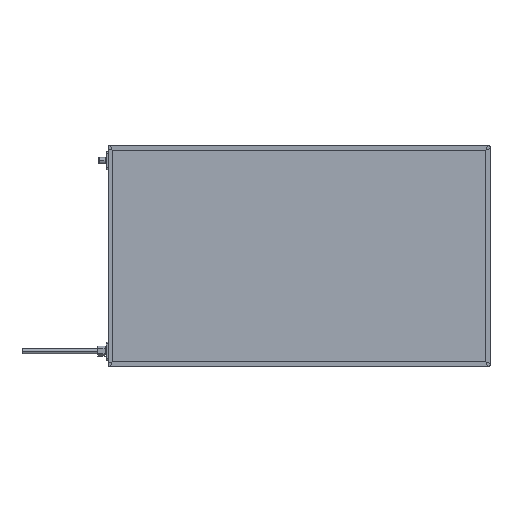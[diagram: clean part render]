
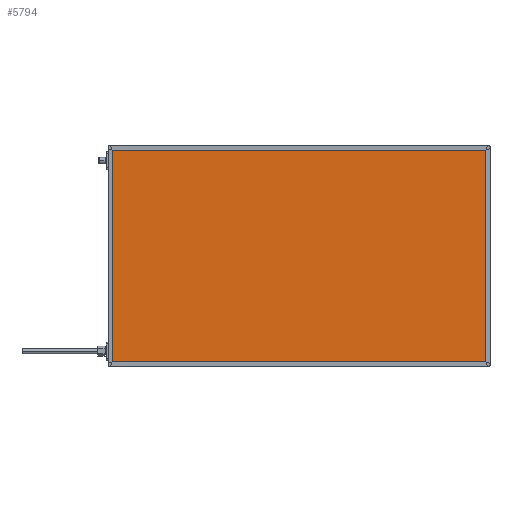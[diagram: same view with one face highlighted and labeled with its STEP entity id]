
A CAD part, top view. The second image highlights one B-rep face of the part: STEP entity #5794.
In plain terms, the highlighted planar face has unit normal (0, 0, 1).
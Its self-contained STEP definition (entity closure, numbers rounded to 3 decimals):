
#30 = LINE ( 'NONE', #1769, #5229 ) ;
#368 = CARTESIAN_POINT ( 'NONE',  ( 0., 396., 41.85 ) ) ;
#492 = DIRECTION ( 'NONE',  ( 0., -1., 0. ) ) ;
#584 = CARTESIAN_POINT ( 'NONE',  ( 4., 0., 41.85 ) ) ;
#736 = ORIENTED_EDGE ( 'NONE', *, *, #15247, .T. ) ;
#962 = VECTOR ( 'NONE', #14236, 1000. ) ;
#1390 = EDGE_LOOP ( 'NONE', ( #16215, #1502, #736, #6128 ) ) ;
#1502 = ORIENTED_EDGE ( 'NONE', *, *, #10169, .T. ) ;
#1769 = CARTESIAN_POINT ( 'NONE',  ( 696., 0., 41.85 ) ) ;
#2897 = EDGE_CURVE ( 'NONE', #14921, #13011, #30, .T. ) ;
#3238 = CARTESIAN_POINT ( 'NONE',  ( 696., 396., 41.85 ) ) ;
#4182 = CARTESIAN_POINT ( 'NONE',  ( 4., 396., 41.85 ) ) ;
#5054 = DIRECTION ( 'NONE',  ( -1., 0., 0. ) ) ;
#5229 = VECTOR ( 'NONE', #12623, 1000. ) ;
#5436 = LINE ( 'NONE', #6800, #9370 ) ;
#5525 = EDGE_CURVE ( 'NONE', #16962, #14921, #5436, .T. ) ;
#5794 = ADVANCED_FACE ( 'NONE', ( #9428 ), #17532, .F. ) ;
#6128 = ORIENTED_EDGE ( 'NONE', *, *, #5525, .T. ) ;
#6592 = VECTOR ( 'NONE', #492, 1000. ) ;
#6781 = DIRECTION ( 'NONE',  ( 0., 0., -1. ) ) ;
#6800 = CARTESIAN_POINT ( 'NONE',  ( 0., 4., 41.85 ) ) ;
#9147 = VERTEX_POINT ( 'NONE', #4182 ) ;
#9370 = VECTOR ( 'NONE', #16460, 1000. ) ;
#9428 = FACE_OUTER_BOUND ( 'NONE', #1390, .T. ) ;
#9515 = CARTESIAN_POINT ( 'NONE',  ( 0., 0., 41.85 ) ) ;
#10169 = EDGE_CURVE ( 'NONE', #13011, #9147, #15785, .T. ) ;
#11301 = CARTESIAN_POINT ( 'NONE',  ( 696., 4., 41.85 ) ) ;
#11639 = LINE ( 'NONE', #584, #6592 ) ;
#12623 = DIRECTION ( 'NONE',  ( 0., 1., 0. ) ) ;
#13011 = VERTEX_POINT ( 'NONE', #3238 ) ;
#14236 = DIRECTION ( 'NONE',  ( -1., 0., 0. ) ) ;
#14607 = CARTESIAN_POINT ( 'NONE',  ( 4., 4., 41.85 ) ) ;
#14893 = AXIS2_PLACEMENT_3D ( 'NONE', #9515, #6781, #5054 ) ;
#14921 = VERTEX_POINT ( 'NONE', #11301 ) ;
#15247 = EDGE_CURVE ( 'NONE', #9147, #16962, #11639, .T. ) ;
#15785 = LINE ( 'NONE', #368, #962 ) ;
#16215 = ORIENTED_EDGE ( 'NONE', *, *, #2897, .T. ) ;
#16460 = DIRECTION ( 'NONE',  ( 1., 0., 0. ) ) ;
#16962 = VERTEX_POINT ( 'NONE', #14607 ) ;
#17532 = PLANE ( 'NONE',  #14893 ) ;
